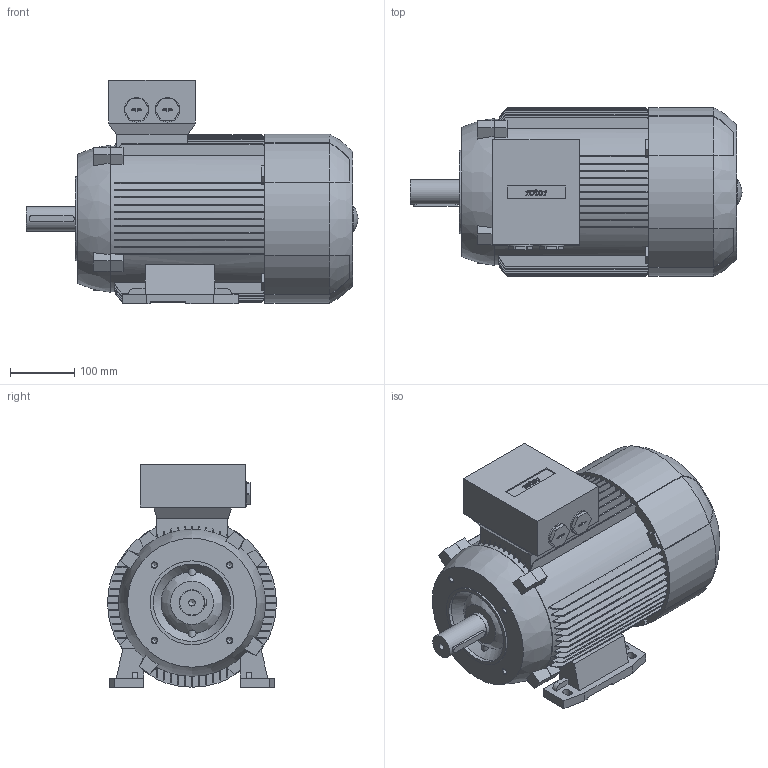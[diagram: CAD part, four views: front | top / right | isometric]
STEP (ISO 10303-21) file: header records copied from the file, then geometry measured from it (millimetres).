
FILE_DESCRIPTION (( 'STEP AP214' ), '1' );
FILE_NAME ('6RN132S02E31 IM2141-A_Rev.1A.STEP', '2018-01-11T14:58:21', ( 'rbc_ict' ), ( '' ), 'SwSTEP 2.0', 'SolidWorks 2015', '' );
FILE_SCHEMA (( 'AUTOMOTIVE_DESIGN' ));
Length unit declared in the file: millimetre
Products named in the file (1): 6RN132S02E31 IM2141-A_Rev.1A
Bounding box: 515 x 262 x 347 mm (x, y, z)
Volume: 21360569.1 mm3; surface area: 867103.1 mm2
Topology: 1 solids, 1 shells, 627 faces, 1784 edges, 1184 vertices
Faces by surface type: plane 371, bspline 144, cylinder 98, cone 14
Full cylindrical faces by diameter (mm): 8.37 x4, 8.38 x4, 10.2 x1, 38 x3, 39 x1, 40 x1, 120 x1, 130 x1
Entity records: 24747 total; most frequent: CARTESIAN_POINT 9591, ORIENTED_EDGE 3466, DIRECTION 2644, EDGE_CURVE 1733, VERTEX_POINT 1163, VECTOR 1016, LINE 1016, AXIS2_PLACEMENT_3D 814
